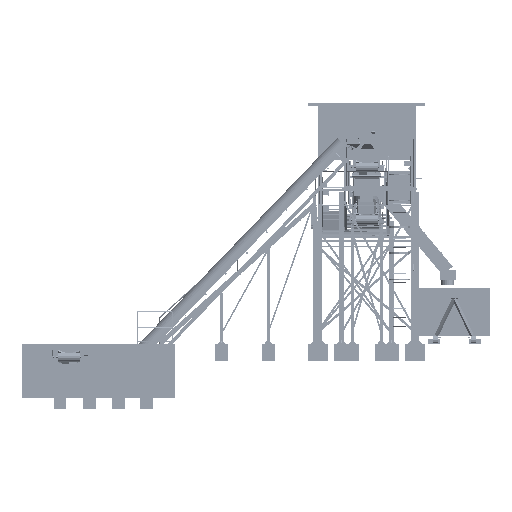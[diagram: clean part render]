
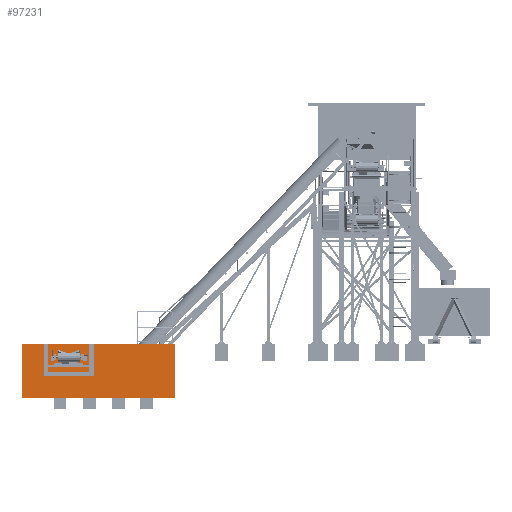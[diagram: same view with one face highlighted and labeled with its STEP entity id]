
A CAD part, left-side view. The second image highlights one B-rep face of the part: STEP entity #97231.
In plain terms, the highlighted planar face has unit normal (-1, 0, 0).
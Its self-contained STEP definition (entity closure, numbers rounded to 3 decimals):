
#97231 = ADVANCED_FACE('',(#97232),#97266,.F.);
#97232 = FACE_BOUND('',#97233,.F.);
#97233 = EDGE_LOOP('',(#97234,#97244,#97252,#97260));
#97234 = ORIENTED_EDGE('',*,*,#97235,.F.);
#97235 = EDGE_CURVE('',#97236,#97238,#97240,.T.);
#97236 = VERTEX_POINT('',#97237);
#97237 = CARTESIAN_POINT('',(0.,0.,0.));
#97238 = VERTEX_POINT('',#97239);
#97239 = CARTESIAN_POINT('',(0.,0.,1850.));
#97240 = LINE('',#97241,#97242);
#97241 = CARTESIAN_POINT('',(0.,0.,0.));
#97242 = VECTOR('',#97243,1.);
#97243 = DIRECTION('',(0.,0.,1.));
#97244 = ORIENTED_EDGE('',*,*,#97245,.T.);
#97245 = EDGE_CURVE('',#97236,#97246,#97248,.T.);
#97246 = VERTEX_POINT('',#97247);
#97247 = CARTESIAN_POINT('',(0.,5250.,0.));
#97248 = LINE('',#97249,#97250);
#97249 = CARTESIAN_POINT('',(0.,0.,0.));
#97250 = VECTOR('',#97251,1.);
#97251 = DIRECTION('',(0.,1.,0.));
#97252 = ORIENTED_EDGE('',*,*,#97253,.T.);
#97253 = EDGE_CURVE('',#97246,#97254,#97256,.T.);
#97254 = VERTEX_POINT('',#97255);
#97255 = CARTESIAN_POINT('',(0.,5250.,1850.));
#97256 = LINE('',#97257,#97258);
#97257 = CARTESIAN_POINT('',(0.,5250.,0.));
#97258 = VECTOR('',#97259,1.);
#97259 = DIRECTION('',(0.,0.,1.));
#97260 = ORIENTED_EDGE('',*,*,#97261,.F.);
#97261 = EDGE_CURVE('',#97238,#97254,#97262,.T.);
#97262 = LINE('',#97263,#97264);
#97263 = CARTESIAN_POINT('',(0.,0.,1850.));
#97264 = VECTOR('',#97265,1.);
#97265 = DIRECTION('',(0.,1.,0.));
#97266 = PLANE('',#97267);
#97267 = AXIS2_PLACEMENT_3D('',#97268,#97269,#97270);
#97268 = CARTESIAN_POINT('',(0.,0.,0.));
#97269 = DIRECTION('',(1.,0.,0.));
#97270 = DIRECTION('',(0.,0.,1.));
